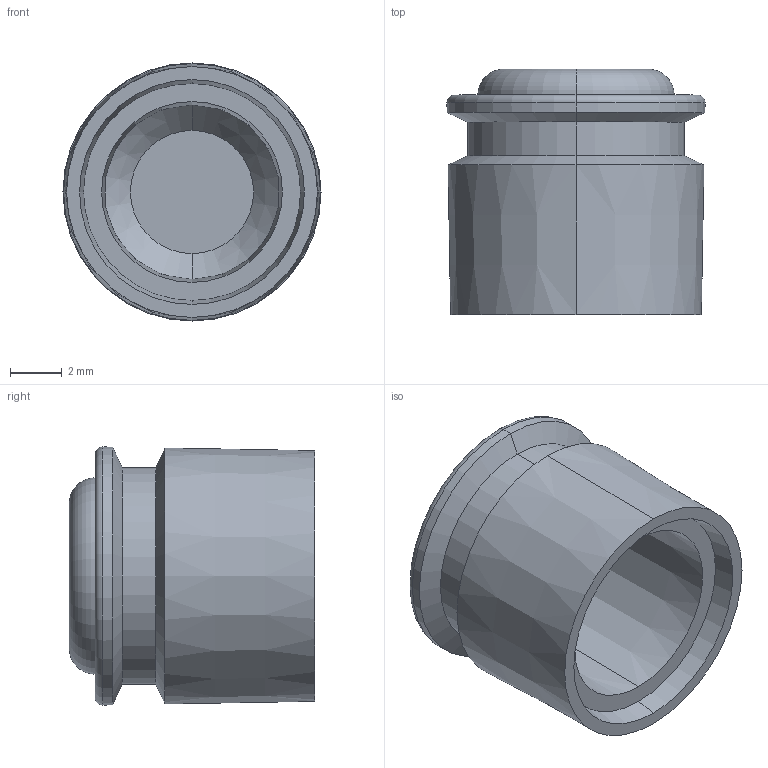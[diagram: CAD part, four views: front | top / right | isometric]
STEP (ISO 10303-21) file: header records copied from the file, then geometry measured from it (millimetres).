
FILE_DESCRIPTION (( 'STEP AP203' ), '1' );
FILE_NAME ('plc-pg-7-00.00.004 Óïëîòíèòåëü (PG7) #sealant (PG7)#.STEP', '2024-04-23T13:55:35', ( '' ), ( '' ), 'SwSTEP 2.0', 'SolidWorks 2021', '' );
FILE_SCHEMA (( 'CONFIG_CONTROL_DESIGN' ));
Length unit declared in the file: millimetre
Products named in the file (1): plc-pg-7-00.00.004 Óïëîòíèòåëü (PG7) #sealant (PG7)#
Bounding box: 9.99 x 9.5 x 9.99 mm (x, y, z)
Volume: 329 mm3; surface area: 612.4 mm2
Topology: 1 solids, 1 shells, 25 faces, 48 edges, 28 vertices
Faces by surface type: cone 14, plane 5, torus 4, cylinder 2
Entity records: 715 total; most frequent: DIRECTION 132, CARTESIAN_POINT 102, ORIENTED_EDGE 96, AXIS2_PLACEMENT_3D 58, EDGE_CURVE 48, CIRCLE 32, EDGE_LOOP 28, VERTEX_POINT 28
